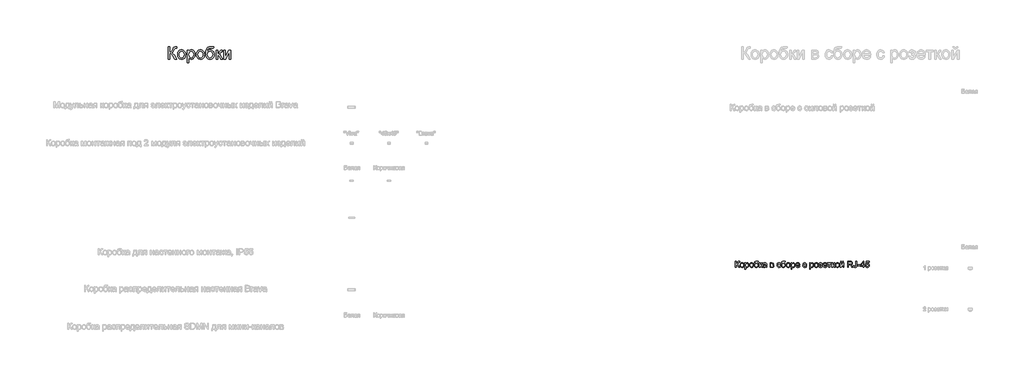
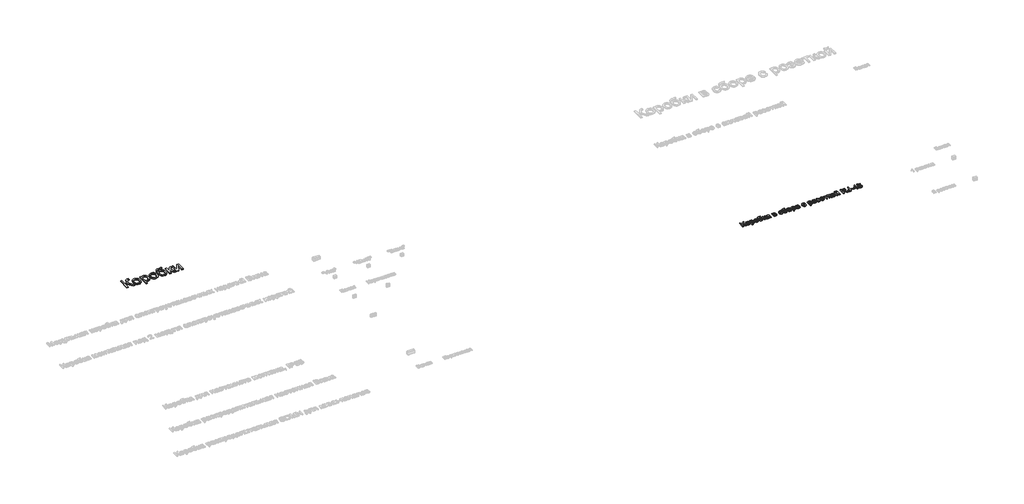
# One storey, part 41 of 48: 2 proxies.
"""IFC4 building model written with IfcOpenShell, lengths in millimetres."""

from ifc_helpers import new_model, si_unit, origin, origin_with_axes, place, context, project, spatial, polyline, outline, extrude, element, save

model = new_model("IFC4")

# Units and contexts
model_context = context("Model", 3, world=origin())
ifc_project = project(units=[si_unit("LENGTHUNIT", "METRE", prefix="MILLI")], contexts=[model_context])

# Site, building, storey
site = spatial("IfcSite", under=ifc_project)
building = spatial("IfcBuilding", under=site)
storey = spatial("IfcBuildingStorey", under=building, Name="Этаж 01", Elevation=0.0)

# Proxies
placement = place(None, origin())
element("IfcBuildingElementProxy", 1, Name="150 мм Arial", ObjectType="150 мм Arial", at=placement, inside=storey, context=model_context, shape_type="SweptSolid", body=[
    extrude(outline(polyline([(53988.8785635, 269.5277956), (54007.7141217, 269.5277956), (54007.7141217, 203.6033421), (54020.4658313, 204.8495423), (54028.7753659, 208.5881431), (54043.4722516, 233.8064539), (54053.864918, 254.8676981), (54065.6371418, 265.2971527), (54082.4677431, 269.5277956), (54094.8285781, 269.3070664), (54094.8285781, 250.4715083), (54090.6715116, 250.5818729), (54086.514445, 250.6922375), (54071.7991652, 246.1672889), (54060.6155526, 226.7799078), (54047.2798302, 203.1618837), (54034.2752017, 195.3627854), (54048.8157376, 186.8463172), (54063.1539383, 169.0960109), (54094.8285781, 118.8433304), (54072.9763876, 118.8433304), (54046.1945784, 161.2969126), (54027.3406261, 183.4618028), (54018.6356184, 187.9729558), (54007.7141217, 189.4766735), (54007.7141217, 118.8433304), (53988.8785635, 118.8433304), (53988.8785635, 269.5277956)])), origin_with_axes(), (0.0, 0.0, 1.0), 20.0),
    extrude(outline(polyline([(54104.2463572, 174.1727825), (54108.3206503, 200.8534242), (54120.5435296, 219.6062089), (54135.6450855, 228.7940617), (54153.7264855, 231.8566793), (54173.5139384, 228.1272756), (54189.3190686, 216.9390644), (54199.6795453, 199.1749626), (54203.1330375, 175.7178868), (54201.6063272, 156.6891906), (54197.0261964, 142.2038371), (54189.5260022, 131.3559168), (54179.2391019, 123.2395202), (54167.0208211, 118.1765443), (54153.7264855, 116.4888856), (54133.6999094, 120.2044938), (54117.9131733, 131.3513182), (54107.6630612, 149.4879006), (54104.2463572, 174.1727825)]), holes=[polyline([(54123.0819154, 174.2095707), (54125.2616162, 157.1628387), (54131.8007186, 145.0181344), (54141.641562, 137.7478664), (54153.7264855, 135.3244438), (54165.7562268, 137.761662), (54175.5786761, 145.0733166), (54182.1177785, 157.3789694), (54184.2974793, 174.7981819), (54182.103983, 191.3482731), (54175.5234938, 203.3274306), (54165.6872489, 210.5976985), (54153.7264855, 213.0211212), (54141.641562, 210.6068956), (54131.8007186, 203.3642188), (54125.2616162, 191.2471056), (54123.0819154, 174.2095707)])]), origin_with_axes(), (0.0, 0.0, 1.0), 20.0),
    extrude(outline(polyline([(54224.3230404, 76.4633245), (54224.3230404, 229.5022345), (54243.1585986, 229.5022345), (54243.1585986, 211.0345584), (54256.1816212, 226.6511491), (54273.7663806, 231.8566793), (54286.5042947, 230.0356634), (54297.6419221, 224.5726158), (54306.7102132, 215.7986302), (54313.2401187, 204.0448005), (54318.5008312, 175.0189111), (54317.0155076, 158.9102782), (54312.559537, 144.5030996), (54305.2754735, 132.5285406), (54295.3058714, 123.7177668), (54283.6945959, 118.2961059), (54271.4855122, 116.4888856), (54255.0963693, 121.3265339), (54243.1585986, 133.5586102), (54243.1585986, 76.4633245), (54224.3230404, 76.4633245)]), holes=[polyline([(54243.1585986, 173.2898657), (54245.1957451, 156.4040821), (54251.3071848, 144.5950701), (54260.3248922, 137.6421003), (54271.080842, 135.3244438), (54282.0115358, 137.7248738), (54291.2591694, 144.9261639), (54297.5637471, 157.1674372), (54299.665273, 174.6878173), (54297.6143309, 191.4816303), (54291.4615045, 203.4561893), (54282.4575927, 210.6298882), (54271.8533942, 213.0211212), (54261.207809, 210.4781369), (54251.8590078, 202.849184), (54245.3337009, 190.3733858), (54243.1585986, 173.2898657)])]), origin_with_axes(), (0.0, 0.0, 1.0), 20.0),
    extrude(outline(polyline([(54334.9819446, 174.1727825), (54339.0562377, 200.8534242), (54351.279117, 219.6062089), (54366.3806729, 228.7940617), (54384.4620729, 231.8566793), (54404.2495257, 228.1272756), (54420.054656, 216.9390644), (54430.4151326, 199.1749626), (54433.8686249, 175.7178868), (54432.3419146, 156.6891906), (54427.7617838, 142.2038371), (54420.2615896, 131.3559168), (54409.9746893, 123.2395202), (54397.7564085, 118.1765443), (54384.4620729, 116.4888856), (54364.4354968, 120.2044938), (54348.6487607, 131.3513182), (54338.3986486, 149.4879006), (54334.9819446, 174.1727825)]), holes=[polyline([(54353.8175027, 174.2095707), (54355.9972035, 157.1628387), (54362.536306, 145.0181344), (54372.3771494, 137.7478664), (54384.4620729, 135.3244438), (54396.4918142, 137.761662), (54406.3142634, 145.0733166), (54412.8533659, 157.3789694), (54415.0330667, 174.7981819), (54412.8395703, 191.3482731), (54406.2590811, 203.3274306), (54396.4228363, 210.5976985), (54384.4620729, 213.0211212), (54372.3771494, 210.6068956), (54362.536306, 203.3642188), (54355.9972035, 191.2471056), (54353.8175027, 174.2095707)])]), origin_with_axes(), (0.0, 0.0, 1.0), 20.0),
    extrude(outline(polyline([(54532.7553052, 271.8822404), (54549.2364186, 271.8822404), (54544.3803762, 257.1853547), (54534.7786562, 251.8694598), (54511.7124551, 250.6922375), (54480.6448206, 246.3512299), (54473.5171069, 240.7042413), (54468.7254439, 232.4452905), (54464.6971361, 207.833985), (54481.0127026, 225.8602028), (54490.9317209, 230.3575602), (54502.0371586, 231.8566793), (54521.6360719, 228.0445021), (54537.5377711, 216.6079706), (54548.0775903, 198.6691248), (54551.5908633, 175.3500049), (54549.8480224, 157.3697723), (54544.6194995, 142.9396011), (54528.0832038, 123.386673), (54516.7892266, 118.2133325), (54502.0371586, 116.4888856), (54485.0364119, 118.7099732), (54472.2938993, 125.3732358), (54462.9175069, 135.4991877), (54456.015121, 148.1083431), (54451.7660839, 167.0956526), (54450.3497383, 196.3560668), (54453.9227921, 232.4958743), (54464.6419538, 254.5366043), (54482.7739376, 265.7799978), (54508.5854581, 269.5277956), (54529.5547318, 269.9508599), (54532.7553052, 271.8822404)]), holes=[polyline([(54532.7553052, 175.938616), (54530.7135601, 190.7596619), (54524.5883249, 202.6284548), (54514.7474815, 210.4229546), (54501.558912, 213.0211212), (54487.8093224, 210.2758018), (54477.6097941, 202.0398436), (54471.2914208, 189.2145575), (54469.1852964, 172.7012545), (54471.51215, 156.6937892), (54478.4927109, 144.944558), (54488.8853773, 137.7294723), (54501.4485474, 135.3244438), (54514.0760969, 138.1065514), (54524.0732901, 146.4528741), (54530.5848014, 159.3885248), (54532.7553052, 175.938616)])]), origin_with_axes(), (0.0, 0.0, 1.0), 20.0),
    extrude(outline(polyline([(54575.135311, 229.5022345), (54593.9708692, 229.5022345), (54593.9708692, 182.4133392), (54606.5892216, 185.7978535), (54616.9267057, 205.5163285), (54625.5167503, 222.5308707), (54633.0951194, 228.0674948), (54646.8723001, 229.5022345), (54650.4775436, 229.5022345), (54650.4775436, 210.5563118), (54645.4007721, 210.6666764), (54636.2037222, 208.6801136), (54629.7289991, 196.2824904), (54622.1322359, 182.8731917), (54611.4820521, 176.306498), (54623.3646406, 168.9764493), (54635.0264998, 153.5346025), (54655.1864332, 118.8433304), (54633.7757011, 118.8433304), (54614.0204379, 152.7988385), (54604.087624, 167.1646305), (54593.9708692, 170.6411153), (54593.9708692, 118.8433304), (54575.135311, 118.8433304), (54575.135311, 229.5022345)])), origin_with_axes(), (0.0, 0.0, 1.0), 20.0),
    extrude(outline(polyline([(54737.5920001, 132.969999), (54719.326659, 120.2044938), (54699.1483316, 116.4888856), (54683.4075807, 118.7237687), (54671.7963053, 125.4284181), (54664.6364019, 135.6095523), (54662.2497675, 148.27389), (54665.855011, 163.1731108), (54675.3279724, 173.9888415), (54688.5165419, 180.169259), (54704.8137143, 183.0019504), (54737.4816355, 189.4766735), (54737.5920001, 193.6705282), (54736.2952161, 202.0766318), (54732.404864, 207.5764676), (54723.7044548, 211.6599578), (54711.582743, 213.0211212), (54692.5264557, 209.3974835), (54683.4397704, 196.5400078), (54664.6042123, 198.8944525), (54672.7527984, 217.2885523), (54689.1603354, 228.0674948), (54714.0107642, 231.8566793), (54736.837842, 228.5089532), (54749.7321059, 220.1028496), (54755.5078533, 207.3189502), (54756.4275582, 190.8378368), (54756.4275582, 167.4037538), (54757.3840514, 134.6806503), (54761.1364478, 118.8433304), (54742.3008896, 118.8433304), (54737.5920001, 132.969999)]), holes=[polyline([(54737.5920001, 170.6411153), (54707.2049473, 164.865368), (54690.9997454, 161.8119474), (54683.6604996, 156.8455405), (54681.0853256, 149.5982652), (54686.6955261, 139.4079339), (54703.1582453, 135.3244438), (54722.2145327, 139.8309982), (54734.5017913, 150.7386994), (54737.4816355, 165.3068264), (54737.5920001, 170.6411153)])]), origin_with_axes(), (0.0, 0.0, 1.0), 20.0),
    extrude(outline(polyline([(54841.1875699, 229.5022345), (54882.684659, 229.5022345), (54905.4381604, 226.9822429), (54918.2404538, 217.7484048), (54923.5931369, 201.6535675), (54920.3557753, 188.5753626), (54910.6069024, 179.249554), (54923.2620431, 169.0408286), (54928.3020264, 151.2905224), (54925.1106501, 136.9339275), (54917.5230839, 126.8263697), (54905.5117368, 120.8390902), (54889.0490175, 118.8433304), (54841.1875699, 118.8433304), (54841.1875699, 229.5022345)]), holes=[polyline([(54860.0231281, 187.1222287), (54878.637957, 187.1222287), (54893.9970303, 188.0787219), (54901.4650348, 191.9046946), (54904.7575787, 198.8208761), (54903.3136419, 204.4402736), (54898.9818314, 208.0547142), (54879.2265682, 210.6666764), (54860.0231281, 210.6666764), (54860.0231281, 187.1222287)]), polyline([(54860.0231281, 137.6788885), (54883.1261174, 137.6788885), (54903.6171445, 141.081797), (54907.8569845, 145.7217087), (54909.4664682, 152.8356267), (54906.2475008, 161.9039179), (54897.8597913, 167.1830246), (54881.2867074, 168.2866705), (54860.0231281, 168.2866705), (54860.0231281, 137.6788885)])]), origin_with_axes(), (0.0, 0.0, 1.0), 20.0),
    extrude(outline(polyline([(55081.3409364, 158.8688915), (55100.1764945, 156.5144467), (55094.9249791, 139.7620203), (55085.0565445, 127.1022812), (55071.500093, 119.1422345), (55055.1845265, 116.4888856), (55035.1487534, 120.1906982), (55019.4815789, 131.2961359), (55009.3694226, 149.3177552), (55005.9987038, 173.7681123), (55007.4380421, 190.5297357), (55011.756057, 205.056476), (55019.0217264, 216.7873131), (55029.3040282, 225.161227), (55041.6050824, 230.1828162), (55054.9270091, 231.8566793), (55070.842504, 229.5574168), (55083.5666225, 222.6596294), (55092.6946945, 211.5311991), (55097.8220498, 196.5400078), (55078.9864916, 194.185563), (55070.2492942, 208.2938375), (55055.0741619, 213.0211212), (55042.9018664, 210.6942675), (55033.2403655, 203.7137067), (55026.9357878, 191.7023595), (55024.8342619, 174.2831471), (55026.8898026, 156.6294098), (55033.0564245, 144.576676), (55042.5431815, 137.6375018), (55054.5591271, 135.3244438), (55064.3125985, 136.7683806), (55072.3094334, 141.1001911), (55078.1265675, 148.4302399), (55081.3409364, 158.8688915)])), origin_with_axes(), (0.0, 0.0, 1.0), 20.0),
    extrude(outline(polyline([(55194.3542853, 271.8822404), (55210.8353987, 271.8822404), (55205.9793564, 257.1853547), (55196.3776363, 251.8694598), (55173.3114352, 250.6922375), (55142.2438007, 246.3512299), (55135.116087, 240.7042413), (55130.324424, 232.4452905), (55126.2961162, 207.833985), (55142.6116827, 225.8602028), (55152.530701, 230.3575602), (55163.6361387, 231.8566793), (55183.235052, 228.0445021), (55199.1367512, 216.6079706), (55209.6765704, 198.6691248), (55213.1898435, 175.3500049), (55211.4470025, 157.3697723), (55206.2184797, 142.9396011), (55189.682184, 123.386673), (55178.3882067, 118.2133325), (55163.6361387, 116.4888856), (55146.635392, 118.7099732), (55133.8928794, 125.3732358), (55124.516487, 135.4991877), (55117.6141011, 148.1083431), (55113.3650641, 167.0956526), (55111.9487184, 196.3560668), (55115.5217723, 232.4958743), (55126.2409339, 254.5366043), (55144.3729177, 265.7799978), (55170.1844382, 269.5277956), (55191.1537119, 269.9508599), (55194.3542853, 271.8822404)]), holes=[polyline([(55194.3542853, 175.938616), (55192.3125402, 190.7596619), (55186.187305, 202.6284548), (55176.3464616, 210.4229546), (55163.1578921, 213.0211212), (55149.4083025, 210.2758018), (55139.2087742, 202.0398436), (55132.890401, 189.2145575), (55130.7842765, 172.7012545), (55133.1111302, 156.6937892), (55140.091691, 144.944558), (55150.4843574, 137.7294723), (55163.0475275, 135.3244438), (55175.675077, 138.1065514), (55185.6722702, 146.4528741), (55192.1837815, 159.3885248), (55194.3542853, 175.938616)])]), origin_with_axes(), (0.0, 0.0, 1.0), 20.0),
    extrude(outline(polyline([(55232.0254016, 174.1727825), (55236.0996947, 200.8534242), (55248.322574, 219.6062089), (55263.4241299, 228.7940617), (55281.50553, 231.8566793), (55301.2929828, 228.1272756), (55317.098113, 216.9390644), (55327.4585897, 199.1749626), (55330.9120819, 175.7178868), (55329.3853716, 156.6891906), (55324.8052408, 142.2038371), (55317.3050466, 131.3559168), (55307.0181463, 123.2395202), (55294.7998656, 118.1765443), (55281.50553, 116.4888856), (55261.4789539, 120.2044938), (55245.6922177, 131.3513182), (55235.4421056, 149.4879006), (55232.0254016, 174.1727825)]), holes=[polyline([(55250.8609598, 174.2095707), (55253.0406606, 157.1628387), (55259.5797631, 145.0181344), (55269.4206064, 137.7478664), (55281.50553, 135.3244438), (55293.5352712, 137.761662), (55303.3577205, 145.0733166), (55309.8968229, 157.3789694), (55312.0765238, 174.7981819), (55309.8830274, 191.3482731), (55303.3025382, 203.3274306), (55293.4662933, 210.5976985), (55281.50553, 213.0211212), (55269.4206064, 210.6068956), (55259.5797631, 203.3642188), (55253.0406606, 191.2471056), (55250.8609598, 174.2095707)])]), origin_with_axes(), (0.0, 0.0, 1.0), 20.0),
    extrude(outline(polyline([(55352.1020848, 76.4633245), (55352.1020848, 229.5022345), (55370.937643, 229.5022345), (55370.937643, 211.0345584), (55383.9606656, 226.6511491), (55401.545425, 231.8566793), (55414.2833391, 230.0356634), (55425.4209665, 224.5726158), (55434.4892577, 215.7986302), (55441.0191631, 204.0448005), (55446.2798756, 175.0189111), (55444.794552, 158.9102782), (55440.3385814, 144.5030996), (55433.0545179, 132.5285406), (55423.0849158, 123.7177668), (55411.4736403, 118.2961059), (55399.2645566, 116.4888856), (55382.8754137, 121.3265339), (55370.937643, 133.5586102), (55370.937643, 76.4633245), (55352.1020848, 76.4633245)]), holes=[polyline([(55370.937643, 173.2898657), (55372.9747895, 156.4040821), (55379.0862292, 144.5950701), (55388.1039366, 137.6421003), (55398.8598864, 135.3244438), (55409.7905802, 137.7248738), (55419.0382139, 144.9261639), (55425.3427916, 157.1674372), (55427.4443174, 174.6878173), (55425.3933753, 191.4816303), (55419.240549, 203.4561893), (55410.2366371, 210.6298882), (55399.6324386, 213.0211212), (55388.9868534, 210.4781369), (55379.6380522, 202.849184), (55373.1127453, 190.3733858), (55370.937643, 173.2898657)])]), origin_with_axes(), (0.0, 0.0, 1.0), 20.0),
    extrude(outline(polyline([(55544.9458267, 151.8055572), (55563.4135029, 149.4511124), (55556.7594373, 135.5359759), (55546.1414432, 125.1341125), (55531.7986439, 118.6501923), (55513.9701627, 116.4888856), (55491.8696519, 120.2182894), (55474.8643066, 131.4065005), (55464.0209848, 149.3269522), (55460.4065442, 173.2530775), (55464.057773, 197.9839446), (55475.0114594, 216.4792119), (55491.7868784, 228.0123125), (55512.9033049, 231.8566793), (55533.3621424, 228.0215095), (55549.7098985, 216.5160001), (55560.4290602, 198.057521), (55564.0021141, 173.3634421), (55563.8917495, 168.2866705), (55479.2421024, 168.2866705), (55482.5024566, 154.1875931), (55490.0762271, 143.8225179), (55501.0069209, 137.4489623), (55514.3380447, 135.3244438), (55532.8057209, 139.2607811), (55544.9458267, 151.8055572)]), holes=[polyline([(55479.2421024, 187.1222287), (55545.1665559, 187.1222287), (55542.6189731, 197.0734367), (55537.624975, 204.1919533), (55526.6436974, 210.8138292), (55512.8297285, 213.0211212), (55500.1332012, 211.2598861), (55489.6347687, 205.976181), (55482.3369097, 197.7402228), (55479.2421024, 187.1222287)])]), origin_with_axes(), (0.0, 0.0, 1.0), 20.0),
    extrude(outline(polyline([(55712.3321345, 158.8688915), (55731.1676927, 156.5144467), (55725.9161772, 139.7620203), (55716.0477427, 127.1022812), (55702.4912911, 119.1422345), (55686.1757247, 116.4888856), (55666.1399515, 120.1906982), (55650.472777, 131.2961359), (55640.3606207, 149.3177552), (55636.9899019, 173.7681123), (55638.4292402, 190.5297357), (55642.7472551, 205.056476), (55650.0129245, 216.7873131), (55660.2952263, 225.161227), (55672.5962805, 230.1828162), (55685.9182073, 231.8566793), (55701.8337021, 229.5574168), (55714.5578206, 222.6596294), (55723.6858926, 211.5311991), (55728.8132479, 196.5400078), (55709.9776897, 194.185563), (55701.2404924, 208.2938375), (55686.0653601, 213.0211212), (55673.8930645, 210.6942675), (55664.2315636, 203.7137067), (55657.926986, 191.7023595), (55655.8254601, 174.2831471), (55657.8810007, 156.6294098), (55664.0476226, 144.576676), (55673.5343796, 137.6375018), (55685.5503253, 135.3244438), (55695.3037967, 136.7683806), (55703.3006315, 141.1001911), (55709.1177656, 148.4302399), (55712.3321345, 158.8688915)])), origin_with_axes(), (0.0, 0.0, 1.0), 20.0),
    extrude(outline(polyline([(55806.5099253, 76.4633245), (55806.5099253, 229.5022345), (55825.3454834, 229.5022345), (55825.3454834, 211.0345584), (55838.3685061, 226.6511491), (55855.9532654, 231.8566793), (55868.6911795, 230.0356634), (55879.8288069, 224.5726158), (55888.8970981, 215.7986302), (55895.4270035, 204.0448005), (55900.687716, 175.0189111), (55899.2023925, 158.9102782), (55894.7464218, 144.5030996), (55887.4623583, 132.5285406), (55877.4927562, 123.7177668), (55865.8814808, 118.2961059), (55853.6723971, 116.4888856), (55837.2832542, 121.3265339), (55825.3454834, 133.5586102), (55825.3454834, 76.4633245), (55806.5099253, 76.4633245)]), holes=[polyline([(55825.3454834, 173.2898657), (55827.38263, 156.4040821), (55833.4940696, 144.5950701), (55842.511777, 137.6421003), (55853.2677269, 135.3244438), (55864.1984206, 137.7248738), (55873.4460543, 144.9261639), (55879.750632, 157.1674372), (55881.8521579, 174.6878173), (55879.8012158, 191.4816303), (55873.6483894, 203.4561893), (55864.6444776, 210.6298882), (55854.0402791, 213.0211212), (55843.3946938, 210.4781369), (55834.0458926, 202.849184), (55827.5205857, 190.3733858), (55825.3454834, 173.2898657)])]), origin_with_axes(), (0.0, 0.0, 1.0), 20.0),
    extrude(outline(polyline([(55917.1688294, 174.1727825), (55921.2431225, 200.8534242), (55933.4660018, 219.6062089), (55948.5675577, 228.7940617), (55966.6489578, 231.8566793), (55986.4364106, 228.1272756), (56002.2415408, 216.9390644), (56012.6020175, 199.1749626), (56016.0555097, 175.7178868), (56014.5287995, 156.6891906), (56009.9486686, 142.2038371), (56002.4484744, 131.3559168), (55992.1615741, 123.2395202), (55979.9432934, 118.1765443), (55966.6489578, 116.4888856), (55946.6223817, 120.2044938), (55930.8356455, 131.3513182), (55920.5855335, 149.4879006), (55917.1688294, 174.1727825)]), holes=[polyline([(55936.0043876, 174.2095707), (55938.1840884, 157.1628387), (55944.7231909, 145.0181344), (55954.5640342, 137.7478664), (55966.6489578, 135.3244438), (55978.678699, 137.761662), (55988.5011483, 145.0733166), (55995.0402508, 157.3789694), (55997.2199516, 174.7981819), (55995.0264552, 191.3482731), (55988.445966, 203.3274306), (55978.6097211, 210.5976985), (55966.6489578, 213.0211212), (55954.5640342, 210.6068956), (55944.7231909, 203.3642188), (55938.1840884, 191.2471056), (55936.0043876, 174.2095707)])]), origin_with_axes(), (0.0, 0.0, 1.0), 20.0),
    extrude(outline(polyline([(56063.1444051, 168.2866705), (56063.1444051, 187.1222287), (56078.0068377, 187.8579927), (56085.5116304, 191.7759359), (56089.0432976, 199.9613103), (56084.3160139, 209.4710599), (56072.1207258, 213.0211212), (56059.5207675, 209.489454), (56051.3721813, 198.8944525), (56030.1821783, 201.2488973), (56035.8015758, 214.6398019), (56044.3456352, 224.2047338), (56055.8143564, 229.9436929), (56070.2077394, 231.8566793), (56085.9530888, 229.5252272), (56097.8724655, 222.5308707), (56105.3772582, 212.2991527), (56107.8788557, 200.2556159), (56104.3195974, 188.5569685), (56093.6418225, 179.5070714), (56106.0946281, 167.7716358), (56110.2333005, 150.8858522), (56107.6075428, 137.0212995), (56099.7302695, 126.0354234), (56087.1349097, 118.8755201), (56070.3548922, 116.4888856), (56053.9427567, 118.6961776), (56041.3841851, 125.3180535), (56032.6791774, 136.3545134), (56027.8277336, 151.8055572), (56049.0177365, 154.1600019), (56057.5158106, 140.2540625), (56072.157514, 135.3244438), (56085.9163006, 140.0517274), (56091.3977423, 152.136651), (56087.9948339, 162.0326766), (56080.7475586, 167.3301774), (56066.8232251, 168.3970351), (56063.1444051, 168.2866705)])), origin_with_axes(), (0.0, 0.0, 1.0), 20.0),
    extrude(outline(polyline([(56211.2536964, 151.8055572), (56229.7213725, 149.4511124), (56223.0673069, 135.5359759), (56212.4493129, 125.1341125), (56198.1065136, 118.6501923), (56180.2780324, 116.4888856), (56158.1775215, 120.2182894), (56141.1721763, 131.4065005), (56130.3288545, 149.3269522), (56126.7144139, 173.2530775), (56130.3656427, 197.9839446), (56141.3193291, 216.4792119), (56158.0947481, 228.0123125), (56179.2111746, 231.8566793), (56199.6700121, 228.0215095), (56216.0177682, 216.5160001), (56226.7369298, 198.057521), (56230.3099837, 173.3634421), (56230.1996191, 168.2866705), (56145.549972, 168.2866705), (56148.8103262, 154.1875931), (56156.3840968, 143.8225179), (56167.3147906, 137.4489623), (56180.6459144, 135.3244438), (56199.1135905, 139.2607811), (56211.2536964, 151.8055572)]), holes=[polyline([(56145.549972, 187.1222287), (56211.4744256, 187.1222287), (56208.9268428, 197.0734367), (56203.9328447, 204.1919533), (56192.9515671, 210.8138292), (56179.1375982, 213.0211212), (56166.4410708, 211.2598861), (56155.9426384, 205.976181), (56148.6447793, 197.7402228), (56145.549972, 187.1222287)])]), origin_with_axes(), (0.0, 0.0, 1.0), 20.0),
    extrude(outline(polyline([(56239.7277628, 229.5022345), (56329.196664, 229.5022345), (56329.196664, 210.6666764), (56293.8799925, 210.6666764), (56293.8799925, 118.8433304), (56275.0444343, 118.8433304), (56275.0444343, 210.6666764), (56239.7277628, 210.6666764), (56239.7277628, 229.5022345)])), origin_with_axes(), (0.0, 0.0, 1.0), 20.0),
    extrude(outline(polyline([(56345.6777774, 229.5022345), (56364.5133356, 229.5022345), (56364.5133356, 182.4133392), (56377.131688, 185.7978535), (56387.4691721, 205.5163285), (56396.0592167, 222.5308707), (56403.6375858, 228.0674948), (56417.4147665, 229.5022345), (56421.02001, 229.5022345), (56421.02001, 210.5563118), (56415.9432385, 210.6666764), (56406.7461886, 208.6801136), (56400.2714655, 196.2824904), (56392.6747023, 182.8731917), (56382.0245185, 176.306498), (56393.907107, 168.9764493), (56405.5689662, 153.5346025), (56425.7288996, 118.8433304), (56404.3181674, 118.8433304), (56384.5629043, 152.7988385), (56374.6300904, 167.1646305), (56364.5133356, 170.6411153), (56364.5133356, 118.8433304), (56345.6777774, 118.8433304), (56345.6777774, 229.5022345)])), origin_with_axes(), (0.0, 0.0, 1.0), 20.0),
    extrude(outline(polyline([(56432.7922339, 174.1727825), (56436.866527, 200.8534242), (56449.0894063, 219.6062089), (56464.1909622, 228.7940617), (56482.2723622, 231.8566793), (56502.059815, 228.1272756), (56517.8649453, 216.9390644), (56528.2254219, 199.1749626), (56531.6789142, 175.7178868), (56530.1522039, 156.6891906), (56525.5720731, 142.2038371), (56518.0718789, 131.3559168), (56507.7849786, 123.2395202), (56495.5666978, 118.1765443), (56482.2723622, 116.4888856), (56462.2457861, 120.2044938), (56446.45905, 131.3513182), (56436.2089379, 149.4879006), (56432.7922339, 174.1727825)]), holes=[polyline([(56451.627792, 174.2095707), (56453.8074928, 157.1628387), (56460.3465953, 145.0181344), (56470.1874387, 137.7478664), (56482.2723622, 135.3244438), (56494.3021035, 137.761662), (56504.1245527, 145.0733166), (56510.6636552, 157.3789694), (56512.843356, 174.7981819), (56510.6498596, 191.3482731), (56504.0693704, 203.3274306), (56494.2331256, 210.5976985), (56482.2723622, 213.0211212), (56470.1874387, 210.6068956), (56460.3465953, 203.3642188), (56453.8074928, 191.2471056), (56451.627792, 174.2095707)])]), origin_with_axes(), (0.0, 0.0, 1.0), 20.0),
    extrude(outline(polyline([(56552.8689171, 229.5022345), (56571.7044752, 229.5022345), (56571.7044752, 145.1101048), (56617.9840302, 229.5022345), (56642.3378183, 229.5022345), (56642.3378183, 118.8433304), (56623.5022602, 118.8433304), (56623.5022602, 202.7204253), (56577.5170108, 118.8433304), (56552.8689171, 118.8433304), (56552.8689171, 229.5022345)])), origin_with_axes(), (0.0, 0.0, 1.0), 20.0),
    extrude(outline(polyline([(56614.0844811, 269.5277956), (56628.2111497, 269.5277956), (56625.1715247, 257.4658647), (56619.0692821, 248.576916), (56610.1803334, 243.1000728), (56598.7805901, 241.2744584), (56586.410558, 243.0862772), (56576.818035, 248.5217337), (56570.2605384, 257.3968868), (56566.9955857, 269.5277956), (56581.1222543, 269.5277956), (56586.4197551, 258.9144001), (56597.0883329, 255.401127), (56608.7869804, 258.8040355), (56614.0844811, 269.5277956)])), origin_with_axes(), (0.0, 0.0, 1.0), 20.0),
    extrude(outline(polyline([(56731.8067195, 118.8433304), (56731.8067195, 269.5277956), (56796.7378917, 269.5277956), (56826.8858212, 265.4626996), (56836.1656445, 259.834105), (56843.3669346, 251.0785136), (56847.9884522, 240.2213962), (56849.528958, 228.288224), (56846.9767767, 213.4441855), (56839.3202326, 201.1385327), (56826.3293997, 192.1162268), (56807.7743516, 187.1222287), (56818.4797176, 179.065613), (56833.7468204, 159.6782319), (56858.8731607, 118.8433304), (56836.984182, 118.8433304), (56817.3760716, 150.0765118), (56803.2126148, 170.7514799), (56793.2614068, 180.5187469), (56784.3034803, 184.1055963), (56773.377385, 184.7677839), (56750.6422777, 184.7677839), (56750.6422777, 118.8433304), (56731.8067195, 118.8433304)]), holes=[polyline([(56750.6422777, 203.6033421), (56792.8015543, 203.6033421), (56814.304257, 206.2704865), (56826.5179392, 214.8053488), (56830.6933999, 227.5892482), (56828.7022386, 236.777101), (56822.7287547, 244.1807262), (56812.4510514, 249.0643596), (56797.5472321, 250.6922375), (56750.6422777, 250.6922375), (56750.6422777, 203.6033421)])]), origin_with_axes(), (0.0, 0.0, 1.0), 20.0),
    extrude(outline(polyline([(56873.0734057, 161.1497598), (56891.9089638, 163.577781), (56893.8679355, 149.8833737), (56898.3468988, 141.3209203), (56905.1895039, 136.8235629), (56914.239401, 135.3244438), (56927.1336649, 138.7273522), (56934.6016694, 147.9979785), (56936.6434145, 166.6679898), (56936.6434145, 269.5277956), (56955.4789726, 269.5277956), (56955.4789726, 166.9990836), (56950.93563, 137.7340708), (56945.0587151, 128.6059988), (56936.5146558, 121.9335392), (56913.3564842, 116.4888856), (56895.9464687, 119.2985844), (56883.1533724, 127.7276806), (56875.3910623, 141.7025979), (56873.0734057, 161.1497598)])), origin_with_axes(), (0.0, 0.0, 1.0), 20.0),
    extrude(outline(polyline([(56976.6689755, 163.577781), (56976.6689755, 182.4133392), (57035.5300948, 182.4133392), (57035.5300948, 163.577781), (56976.6689755, 163.577781)])), origin_with_axes(), (0.0, 0.0, 1.0), 20.0),
    extrude(outline(polyline([(57113.2267721, 118.8433304), (57113.2267721, 154.1600019), (57044.9478738, 154.1600019), (57044.9478738, 172.9955601), (57117.9356617, 267.1733508), (57132.0623303, 267.1733508), (57132.0623303, 172.9955601), (57150.8978885, 172.9955601), (57150.8978885, 154.1600019), (57132.0623303, 154.1600019), (57132.0623303, 118.8433304), (57113.2267721, 118.8433304)]), holes=[polyline([(57113.2267721, 172.9955601), (57113.2267721, 231.1944917), (57068.1244395, 172.9955601), (57113.2267721, 172.9955601)])]), origin_with_axes(), (0.0, 0.0, 1.0), 20.0),
    extrude(outline(polyline([(57167.3790018, 158.8688915), (57186.21456, 161.2233362), (57189.6726507, 149.9155634), (57195.7059155, 141.817561), (57204.286763, 136.9477231), (57215.3876022, 135.3244438), (57228.8888714, 137.5823195), (57239.0056263, 144.3559468), (57245.3239996, 154.8635762), (57247.430124, 168.3234587), (57245.4573568, 180.9969935), (57239.5390552, 190.6906841), (57229.6292339, 196.8435104), (57215.6819078, 198.8944525), (57199.1456121, 195.6203028), (57188.5690048, 187.1222287), (57169.7334466, 189.4766735), (57186.21456, 267.1733508), (57259.2023478, 267.1733508), (57259.2023478, 248.3377927), (57201.4448746, 248.3377927), (57193.3882589, 206.8407036), (57206.8435429, 215.0076839), (57220.9426203, 217.7300107), (57238.5411753, 214.3546934), (57253.150689, 204.2287415), (57262.9869339, 188.7960918), (57266.2656821, 169.5006811), (57263.3134291, 150.665123), (57254.4566701, 134.5518916), (57237.4973101, 121.0046371), (57215.3140258, 116.4888856), (57196.81416, 119.3905549), (57182.0758875, 128.0955626), (57171.9729283, 141.5922333), (57167.3790018, 158.8688915)])), origin_with_axes(), (0.0, 0.0, 1.0), 20.0),
])
element("IfcBuildingElementProxy", 2, Name="300 мм Arial", ObjectType="300 мм Arial", at=placement, inside=storey, context=model_context, shape_type="SweptSolid", body=[
    extrude(outline(polyline([(40130.7728099, 5511.0592945), (40168.4439262, 5511.0592945), (40168.4439262, 5379.2103874), (40193.9473455, 5381.7027879), (40210.5664146, 5389.1799894), (40224.0033045, 5406.7739459), (40239.960186, 5439.616611), (40260.7455188, 5481.7390994), (40270.7703031, 5493.1526383), (40284.2899664, 5502.5980086), (40300.3388185, 5508.943973), (40317.951169, 5511.0592945), (40342.6728391, 5510.6178361), (40342.6728391, 5472.9467198), (40334.358706, 5473.1674489), (40326.0445729, 5473.3881781), (40308.7909073, 5471.1257039), (40296.6140133, 5464.3382811), (40286.1293764, 5450.0828538), (40274.246788, 5425.5635188), (40259.6694639, 5395.0293132), (40247.5753433, 5378.3274706), (40221.5660863, 5362.729274), (40236.1572059, 5356.5212653), (40250.647158, 5345.6963376), (40279.3235595, 5310.1957251), (40342.6728391, 5209.690364), (40298.9684581, 5209.690364), (40245.4048396, 5294.5975285), (40224.7206744, 5321.8299932), (40207.696935, 5338.9273089), (40190.2869196, 5347.9496148), (40168.4439262, 5350.9570502), (40168.4439262, 5209.690364), (40130.7728099, 5209.690364), (40130.7728099, 5511.0592945)])), origin_with_axes(), (0.0, 0.0, 1.0), 20.0),
    extrude(outline(polyline([(40361.5083972, 5320.3492682), (40363.5455438, 5349.0118741), (40369.6569834, 5373.7105516), (40379.8427162, 5394.4453005), (40394.102742, 5411.216121), (40408.4593369, 5421.9352826), (40424.3058538, 5429.5918266), (40441.6422928, 5434.185753), (40460.4686539, 5435.7170618), (40481.2516874, 5433.85236), (40500.0435596, 5428.2582544), (40516.8442704, 5418.9347451), (40531.65382, 5405.881832), (40543.7410428, 5389.5409737), (40552.3747734, 5370.3536283), (40557.5550117, 5348.3197961), (40559.2817578, 5323.4394769), (40556.2283373, 5285.3820845), (40547.0680756, 5256.4113774), (40532.0676872, 5234.7155367), (40511.4938867, 5218.4827437), (40487.0573251, 5208.3567918), (40460.4686539, 5204.9814745), (40439.3821178, 5206.8392785), (40420.4155017, 5212.4126908), (40403.5688056, 5221.7017111), (40388.8420295, 5234.7063397), (40376.8835654, 5251.2058472), (40368.3418053, 5270.9795044), (40363.2167492, 5294.0273114), (40361.5083972, 5320.3492682)]), holes=[polyline([(40399.1795135, 5320.4228446), (40403.5389152, 5286.3293806), (40416.6171201, 5262.0399719), (40436.2988069, 5247.4994361), (40460.4686539, 5242.6525908), (40484.5281364, 5247.5270272), (40504.173035, 5262.1503365), (40517.2512399, 5286.761642), (40521.6106415, 5321.6000669), (40517.2236487, 5354.7002495), (40504.0626704, 5378.6585644), (40484.3901807, 5393.1991002), (40460.4686539, 5398.0459455), (40436.2988069, 5393.2174943), (40416.6171201, 5378.7321408), (40403.5389152, 5354.4979144), (40399.1795135, 5320.4228446)])]), origin_with_axes(), (0.0, 0.0, 1.0), 20.0),
    extrude(outline(polyline([(40601.6617637, 5124.9303523), (40601.6617637, 5431.0081723), (40639.33288, 5431.0081723), (40639.33288, 5394.07282), (40651.6201386, 5412.2921758), (40665.3789252, 5425.3060014), (40681.4185802, 5433.1142967), (40700.548444, 5435.7170618), (40726.0242722, 5432.0750301), (40748.299527, 5421.1489348), (40766.4361093, 5403.6009637), (40779.4959202, 5380.0933042), (40787.3869889, 5352.3366076), (40790.0173452, 5322.0415253), (40787.0466981, 5289.8242596), (40778.1347568, 5261.0099023), (40763.5666298, 5237.0607844), (40743.6274256, 5219.4392369), (40720.4048747, 5208.5959151), (40695.9867072, 5204.9814745), (40678.6686623, 5207.4002986), (40663.2084215, 5214.6567709), (40649.9738667, 5225.6104573), (40639.33288, 5239.1209236), (40639.33288, 5124.9303523), (40601.6617637, 5124.9303523)]), holes=[polyline([(40639.33288, 5318.5834346), (40643.4071731, 5284.8118674), (40655.6300524, 5261.1938433), (40673.6654672, 5247.2879039), (40695.1773669, 5242.6525908), (40717.0387544, 5247.4534508), (40735.5340217, 5261.8560309), (40748.1431771, 5286.3385777), (40752.3462289, 5321.3793377), (40748.2443447, 5354.9669639), (40735.9386919, 5378.9160818), (40717.9308683, 5393.2634796), (40696.7224712, 5398.0459455), (40675.4313008, 5392.959977), (40656.7336984, 5377.7020712), (40643.6830846, 5352.7504749), (40639.33288, 5318.5834346)])]), origin_with_axes(), (0.0, 0.0, 1.0), 20.0),
    extrude(outline(polyline([(40822.979572, 5320.3492682), (40825.0167185, 5349.0118741), (40831.1281582, 5373.7105516), (40841.3138909, 5394.4453005), (40855.5739168, 5411.216121), (40869.9305116, 5421.9352826), (40885.7770286, 5429.5918266), (40903.1134676, 5434.185753), (40921.9398287, 5435.7170618), (40942.7228621, 5433.85236), (40961.5147343, 5428.2582544), (40978.3154452, 5418.9347451), (40993.1249948, 5405.881832), (41005.2122176, 5389.5409737), (41013.8459481, 5370.3536283), (41019.0261865, 5348.3197961), (41020.7529326, 5323.4394769), (41017.699512, 5285.3820845), (41008.5392503, 5256.4113774), (40993.538862, 5234.7155367), (40972.9650614, 5218.4827437), (40948.5284999, 5208.3567918), (40921.9398287, 5204.9814745), (40900.8532926, 5206.8392785), (40881.8866765, 5212.4126908), (40865.0399803, 5221.7017111), (40850.3132042, 5234.7063397), (40838.3547401, 5251.2058472), (40829.81298, 5270.9795044), (40824.687924, 5294.0273114), (40822.979572, 5320.3492682)]), holes=[polyline([(40860.6506883, 5320.4228446), (40865.0100899, 5286.3293806), (40878.0882949, 5262.0399719), (40897.7699816, 5247.4994361), (40921.9398287, 5242.6525908), (40945.9993112, 5247.5270272), (40965.6442097, 5262.1503365), (40978.7224146, 5286.761642), (40983.0818163, 5321.6000669), (40978.6948235, 5354.7002495), (40965.5338451, 5378.6585644), (40945.8613554, 5393.1991002), (40921.9398287, 5398.0459455), (40897.7699816, 5393.2174943), (40878.0882949, 5378.7321408), (40865.0100899, 5354.4979144), (40860.6506883, 5320.4228446)])]), origin_with_axes(), (0.0, 0.0, 1.0), 20.0),
    extrude(outline(polyline([(41218.5262932, 5515.768184), (41251.48852, 5515.768184), (41247.9200646, 5497.8615279), (41241.7764353, 5486.3744126), (41233.2599671, 5479.5777927), (41222.5729951, 5475.7426229), (41176.4405929, 5473.3881781), (41138.1348802, 5471.2176744), (41114.305324, 5464.7061631), (41100.0498966, 5453.4121858), (41090.4665707, 5436.8942842), (41084.8287791, 5415.0236996), (41082.409955, 5387.6716733), (41097.5574961, 5408.7145234), (41115.041088, 5423.7241088), (41134.8791245, 5432.7188236), (41157.09, 5435.7170618), (41177.6132168, 5433.8109733), (41196.2878266, 5428.0927075), (41213.1138293, 5418.5622646), (41228.0912251, 5405.2196444), (41240.3876808, 5388.6258672), (41249.1708634, 5369.3419529), (41254.440773, 5347.3679014), (41256.1974095, 5322.7037129), (41252.7117276, 5286.7432479), (41242.2546819, 5257.8829054), (41227.0151702, 5235.4513007), (41209.1820905, 5218.7770493), (41186.594136, 5208.4303682), (41157.09, 5204.9814745), (41123.0885066, 5209.4236496), (41097.6034814, 5222.7501748), (41078.8506967, 5243.0020787), (41065.0459248, 5268.2203894), (41056.5478507, 5306.1950084), (41053.7151594, 5364.7158368), (41055.5016863, 5404.3804136), (41060.8612671, 5436.9954518), (41069.7939018, 5462.5609512), (41082.2995904, 5481.0769118), (41098.5116901, 5494.1942042), (41118.5635581, 5503.5636988), (41142.4551944, 5509.1853955), (41170.186599, 5511.0592945), (41212.1251465, 5511.905423), (41218.5262932, 5515.768184)]), holes=[polyline([(41218.5262932, 5323.8809353), (41214.442803, 5353.5230271), (41202.1923326, 5377.2606128), (41182.5106459, 5392.8496124), (41156.1335068, 5398.0459455), (41128.6343277, 5392.5553068), (41117.547284, 5385.6920083), (41108.235271, 5376.0833904), (41095.5985245, 5350.4328183), (41091.3862757, 5317.4062122), (41096.0399829, 5285.3912816), (41110.0011046, 5261.8928191), (41130.7864373, 5247.4626479), (41155.9127776, 5242.6525908), (41181.1678766, 5248.2168059), (41201.162263, 5264.9094515), (41214.1852857, 5290.7807528), (41218.5262932, 5323.8809353)])]), origin_with_axes(), (0.0, 0.0, 1.0), 20.0),
    extrude(outline(polyline([(41303.2863049, 5431.0081723), (41340.9574212, 5431.0081723), (41340.9574212, 5336.8303815), (41356.2797063, 5338.5226387), (41366.1941261, 5343.5994102), (41374.9681116, 5356.8431621), (41386.8690942, 5383.0363601), (41404.0491834, 5417.0654447), (41419.2059216, 5428.1386927), (41446.760283, 5431.0081723), (41453.9707701, 5431.0081723), (41453.9707701, 5393.1163268), (41443.817227, 5393.337056), (41425.4231273, 5389.3639304), (41412.4736811, 5364.568684), (41397.2801547, 5337.7500865), (41375.9797871, 5324.6166993), (41387.9175579, 5319.3146), (41399.744964, 5309.9566018), (41423.0686825, 5279.0729083), (41463.3885492, 5209.690364), (41420.5670849, 5209.690364), (41381.0565587, 5277.6013803), (41361.1909309, 5306.3329641), (41351.9019105, 5311.5476914), (41340.9574212, 5313.2859338), (41340.9574212, 5209.690364), (41303.2863049, 5209.690364), (41303.2863049, 5431.0081723)])), origin_with_axes(), (0.0, 0.0, 1.0), 20.0),
    extrude(outline(polyline([(41486.9329969, 5431.0081723), (41524.6041132, 5431.0081723), (41524.6041132, 5262.2239129), (41617.1632232, 5431.0081723), (41665.8707993, 5431.0081723), (41665.8707993, 5209.690364), (41628.199683, 5209.690364), (41628.199683, 5377.4445538), (41536.2291842, 5209.690364), (41486.9329969, 5209.690364), (41486.9329969, 5431.0081723)])), origin_with_axes(), (0.0, 0.0, 1.0), 20.0),
])

save(model, "model.ifc")
